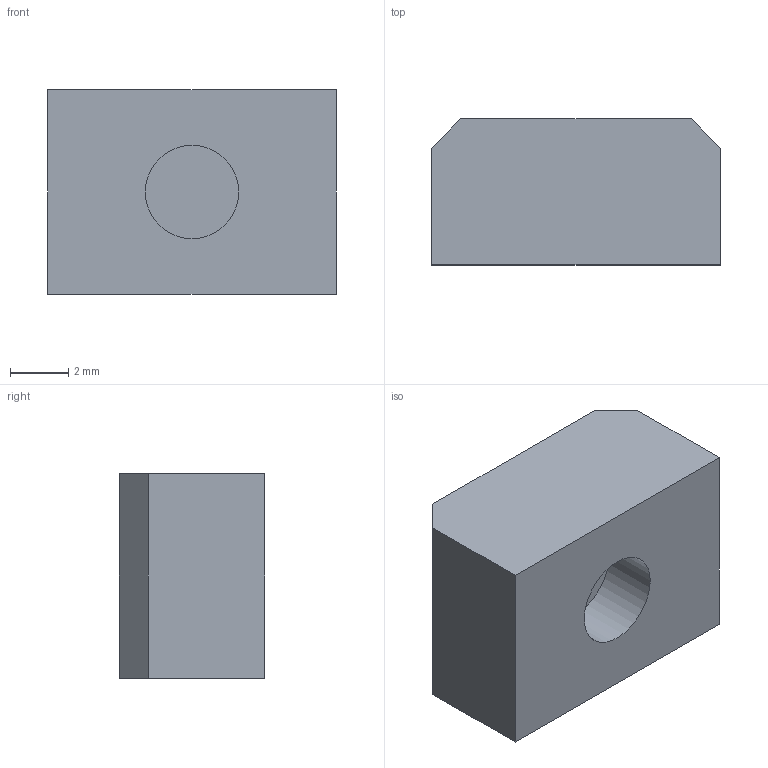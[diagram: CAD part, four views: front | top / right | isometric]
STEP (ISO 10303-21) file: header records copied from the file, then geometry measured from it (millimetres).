
FILE_DESCRIPTION(/* description */ (''),/* implementation_level */ '2;1');
FILE_NAME(/* name */ 'D:\3D печать\Мои проекты\Archy MK 2\STEP\MK3\проставка для натяжителя.stp',/* time_stamp */ '2019-07-18T21:43:35+06:00',/* author */ ('Пользователь'),/* organization */ (''),/* preprocessor_version */ 'ST-DEVELOPER v16.5',/* originating_system */ 'Autodesk Inventor 2017',/* authorisation */ '');
FILE_SCHEMA (('AUTOMOTIVE_DESIGN { 1 0 10303 214 3 1 1 }'));
Length unit declared in the file: millimetre
Products named in the file (1): проставка \X2\0434043B
044F\X0\ натяжителя
Bounding box: 9.9 x 5 x 7 mm (x, y, z)
Volume: 323.4 mm3; surface area: 317.5 mm2
Topology: 1 solids, 1 shells, 10 faces, 21 edges, 14 vertices
Faces by surface type: plane 9, cylinder 1
Full cylindrical faces by diameter (mm): 3.2 x1
Entity records: 286 total; most frequent: CARTESIAN_POINT 45, DIRECTION 44, ORIENTED_EDGE 40, EDGE_CURVE 20, LINE 18, VECTOR 18, VERTEX_POINT 14, AXIS2_PLACEMENT_3D 13
